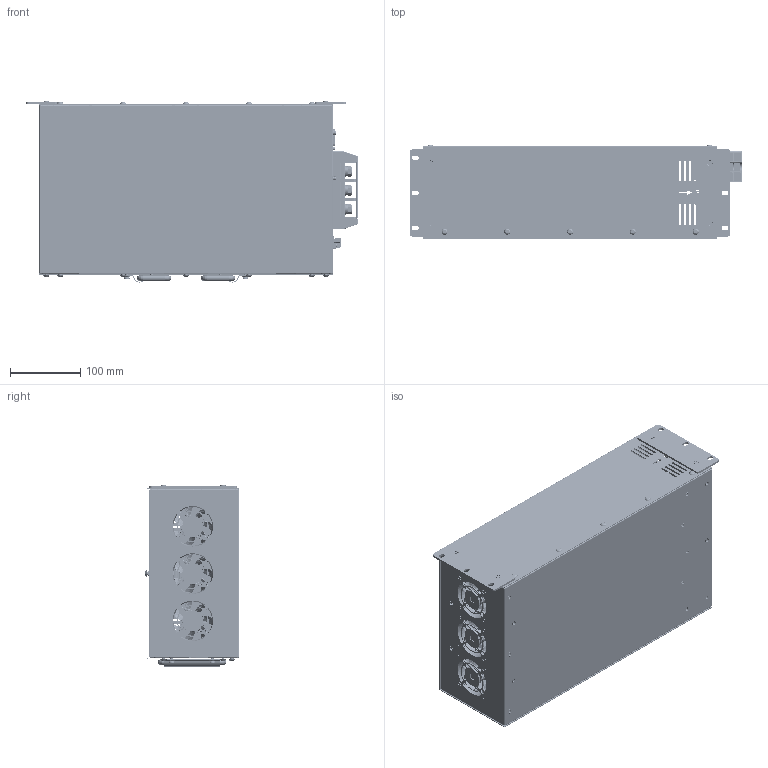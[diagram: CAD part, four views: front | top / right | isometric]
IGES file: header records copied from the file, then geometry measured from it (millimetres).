
Global section: file name: VX3COM_OLED_HANDLE2SM_2026.06.11_단순화_1; native system: Autodesk Inventor 2026; preprocessor: unknown; author: Administrator; date: 20260612.110147; units: millimetre
Bounding box: 474 x 134.59 x 258.45 mm (x, y, z)
Volume: 760192 mm3; surface area: 974607.8 mm2
Topology: 14 solids, 14 shells, 9677 faces, 26407 edges, 17426 vertices
Faces by surface type: bspline 9677
